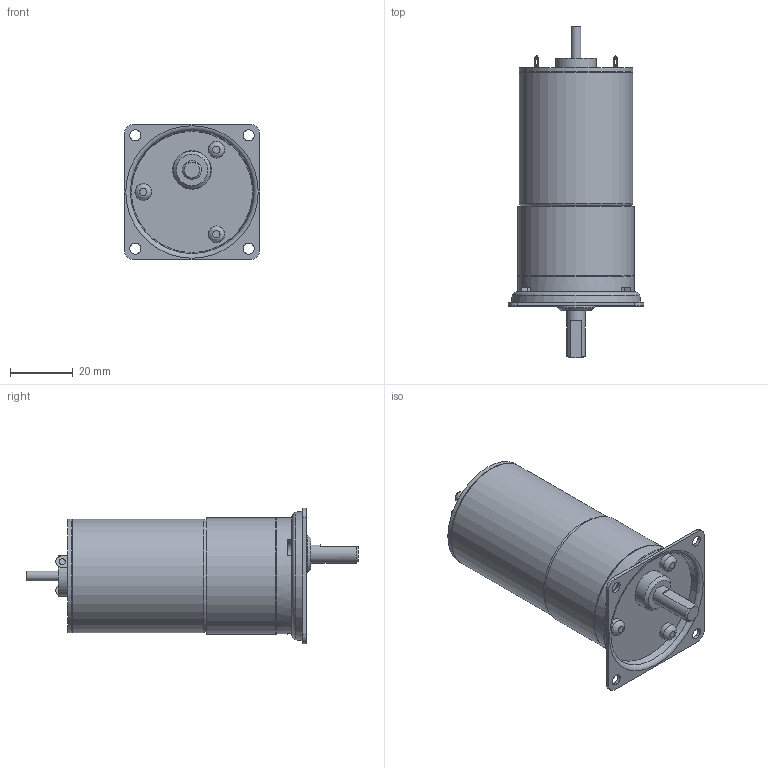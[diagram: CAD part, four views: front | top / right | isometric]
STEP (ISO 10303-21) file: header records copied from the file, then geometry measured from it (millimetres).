
FILE_DESCRIPTION((''),'2;1');
FILE_NAME('C:\Documents and Settings\SSEGAWA\デスクトップ\TP-3644L-PKS-4.STP','2013-07-26T19:09:47',('SSEGAWA'),(''),'Autodesk Inventor 2010','Autodesk Inventor 2010','');
FILE_SCHEMA(('CONFIG_CONTROL_DESIGN'));
Length unit declared in the file: millimetre
Products named in the file (1): tp_3644l_pks_4_Shrinkwrap_1
Bounding box: 43 x 105.5 x 43 mm (x, y, z)
Volume: 77499.8 mm3; surface area: 15308.4 mm2
Topology: 11 solids, 11 shells, 116 faces, 249 edges, 166 vertices
Faces by surface type: plane 54, cylinder 27, bspline 27, cone 4, torus 4
Full cylindrical faces by diameter (mm): 3 x1, 3.175 x1, 3.5 x1, 5.3 x3, 6 x1, 12 x1, 12.2 x1, 13 x1, 35.6 x1, 36 x2, 36.6 x1, 37 x2
Entity records: 3298 total; most frequent: CARTESIAN_POINT 968, DIRECTION 451, ORIENTED_EDGE 340, AXIS2_PLACEMENT_3D 193, EDGE_LOOP 189, EDGE_CURVE 170, VERTEX_POINT 137, STYLED_ITEM 127
